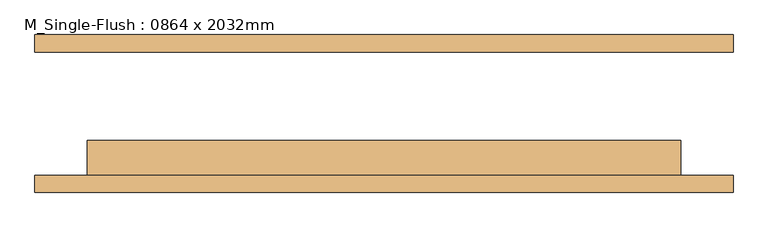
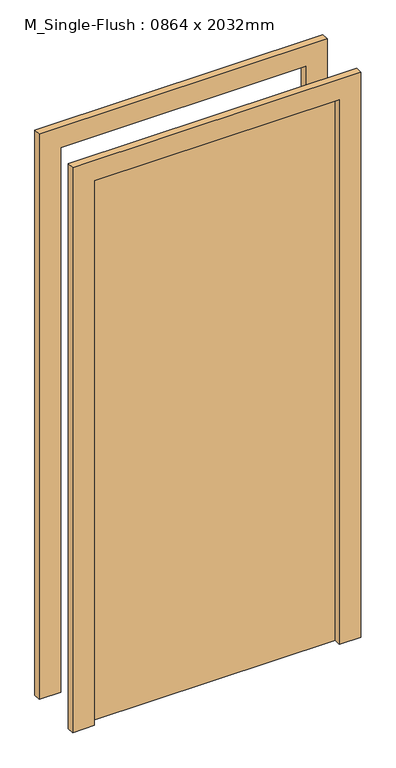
"""IFC4 building model written with IfcOpenShell, lengths in millimetres: door geometry, M_Single-Flush : 0864 x 2032mm."""

import ifcopenshell
import ifcopenshell.guid

model = None  # the IFC model being written
_history = None  # IfcOwnerHistory: only IFC2X3 demands one
_inside = {}  # id of a spatial element -> (the spatial element, [elements in it])
_under = {}  # id of a project, library or spatial element -> (it, [spatial elements below it])
_declared = {}  # id of a project -> (the project, [libraries it declares])
_typed = {}  # id of a type object -> (the type object, [elements of that type])
_made_of = {}  # id of a material, layer set ... -> (it, [elements and type objects made of it])


def new_model(schema):
    """Start an empty IFC model of exactly this schema.

    Asked for "IFC4X3", IfcOpenShell would pick the latest addendum, in which some entities
    have other attributes; the version numbers below select the first issue.
    IFC2X3 requires an IfcOwnerHistory on every rooted entity: one is made here for all.
    """
    global model, _history
    if schema == "IFC4X3":
        model = ifcopenshell.file(schema_version=(4, 3, 0, 0))
    else:
        model = ifcopenshell.file(schema=schema)
    _inside.clear()
    _under.clear()
    _declared.clear()
    _typed.clear()
    _made_of.clear()
    _history = None
    if model.schema == "IFC2X3":
        org = make("IfcOrganization", Name="unknown")
        user = make(
            "IfcPersonAndOrganization",
            ThePerson=make("IfcPerson", FamilyName="unknown"),
            TheOrganization=org,
        )
        app = make(
            "IfcApplication",
            ApplicationDeveloper=org,
            Version="unknown",
            ApplicationFullName="unknown",
            ApplicationIdentifier="unknown",
        )
        _history = make(
            "IfcOwnerHistory",
            OwningUser=user,
            OwningApplication=app,
            ChangeAction="ADDED",
            CreationDate=0,
        )
    return model


def make(cls, **values):
    """One entity of the class cls with the attributes given. An attribute that is None is left unset."""
    return model.create_entity(
        cls, **{name: value for name, value in values.items() if value is not None}
    )


def rooted(cls, **values):
    """An entity with a GlobalId (a new one), such as an element, a storey or a relation."""
    return make(cls, GlobalId=ifcopenshell.guid.new(), OwnerHistory=_history, **values)


def si_unit(unit_type, name, prefix=None):
    """IfcSIUnit, for example si_unit("LENGTHUNIT", "METRE", prefix="MILLI")."""
    return make("IfcSIUnit", UnitType=unit_type, Prefix=prefix, Name=name)


def assignment(units):
    """IfcUnitAssignment: the units of a project."""
    return None if units is None else make("IfcUnitAssignment", Units=units)


def point(xyz):
    """IfcCartesianPoint."""
    return None if xyz is None else make("IfcCartesianPoint", Coordinates=xyz)


def direction(xyz):
    """IfcDirection."""
    return None if xyz is None else make("IfcDirection", DirectionRatios=xyz)


def frame(location, z_axis=None, x_axis=None):
    """IfcAxis2Placement3D, a coordinate frame: its origin and axes. An axis left out is left unset."""
    return make(
        "IfcAxis2Placement3D",
        Location=point(location),
        Axis=direction(z_axis),
        RefDirection=direction(x_axis),
    )


def origin():
    """The frame at (0, 0, 0) with its axes left unset."""
    return frame((0.0, 0.0, 0.0))


def origin_with_axes():
    """The frame at (0, 0, 0) with the z axis (0, 0, 1) and the x axis (1, 0, 0) written out."""
    return frame((0.0, 0.0, 0.0), z_axis=(0.0, 0.0, 1.0), x_axis=(1.0, 0.0, 0.0))


def place(relative_to, where):
    """IfcLocalPlacement: puts the frame where relative to a parent placement (None: the world)."""
    return make(
        "IfcLocalPlacement", PlacementRelTo=relative_to, RelativePlacement=where
    )


def context(
    kind, dimensions, precision=None, world=None, true_north=None, identifier=None
):
    """IfcGeometricRepresentationContext, for example the 3D "Model" context."""
    return make(
        "IfcGeometricRepresentationContext",
        ContextIdentifier=identifier,
        ContextType=kind,
        CoordinateSpaceDimension=dimensions,
        Precision=precision,
        WorldCoordinateSystem=world,
        TrueNorth=true_north,
    )


def project(units=None, contexts=None):
    """IfcProject with its units and contexts."""
    return rooted(
        "IfcProject",
        Name="project",
        RepresentationContexts=contexts,
        UnitsInContext=assignment(units),
    )


def spatial(cls, under=None, at=None, **own):
    """A site, building, storey or space (cls), placed at a placement, below another one or the project."""
    s = rooted(cls, ObjectPlacement=at, **own)
    if under is not None:
        _under.setdefault(under.id(), (under, []))[1].append(s)
    return s


def polyline(points):
    """IfcPolyline through the points."""
    return make("IfcPolyline", Points=[point(p) for p in points])


def outline(outer, holes=None, kind="AREA"):
    """IfcArbitraryClosedProfileDef: a profile drawn as a closed curve; with holes, ...WithVoids."""
    if holes is None:
        return make("IfcArbitraryClosedProfileDef", ProfileType=kind, OuterCurve=outer)
    return make(
        "IfcArbitraryProfileDefWithVoids",
        ProfileType=kind,
        OuterCurve=outer,
        InnerCurves=holes,
    )


def extrude(swept, where, along, depth):
    """IfcExtrudedAreaSolid: the profile swept, set in the frame where, extruded along a direction by depth."""
    return make(
        "IfcExtrudedAreaSolid",
        SweptArea=swept,
        Position=where,
        ExtrudedDirection=direction(along),
        Depth=depth,
    )


def shape(context_of_items, identifier, shape_type, items):
    """IfcShapeRepresentation: the items that make up one representation, for example the "Body"."""
    return make(
        "IfcShapeRepresentation",
        ContextOfItems=context_of_items,
        RepresentationIdentifier=identifier,
        RepresentationType=shape_type,
        Items=items,
    )


def source(mapping_origin, context_of_items, identifier, shape_type, items):
    """IfcRepresentationMap: a shape defined once, which mapped items show again and again."""
    return make(
        "IfcRepresentationMap",
        MappingOrigin=mapping_origin,
        MappedRepresentation=shape(context_of_items, identifier, shape_type, items),
    )


def transform(
    local_origin,
    x_axis=None,
    y_axis=None,
    z_axis=None,
    scale=None,
    scale2=None,
    scale3=None,
    uniform=True,
):
    """IfcCartesianTransformationOperator3D, or its non-uniform kind. x_axis, y_axis, z_axis: its Axis1, 2, 3."""
    if uniform:
        return make(
            "IfcCartesianTransformationOperator3D",
            Axis1=direction(x_axis),
            Axis2=direction(y_axis),
            LocalOrigin=point(local_origin),
            Scale=scale,
            Axis3=direction(z_axis),
        )
    return make(
        "IfcCartesianTransformationOperator3DnonUniform",
        Axis1=direction(x_axis),
        Axis2=direction(y_axis),
        LocalOrigin=point(local_origin),
        Scale=scale,
        Axis3=direction(z_axis),
        Scale2=scale2,
        Scale3=scale3,
    )


def mapped(mapping_source, mapping_target):
    """IfcMappedItem: shows the shape of a source again, moved by a transform."""
    return make(
        "IfcMappedItem", MappingSource=mapping_source, MappingTarget=mapping_target
    )


def made_of(thing, what):
    """Note that an element or type object is made of a material, layer set ...; save() writes the relation."""
    if what is not None:
        _made_of.setdefault(what.id(), (what, []))[1].append(thing)
    return thing


def element(
    cls,
    number,
    at=None,
    inside=None,
    cuts=None,
    type_object=None,
    material=None,
    context=None,
    identifier="Body",
    shape_type=None,
    held_by="IfcProductDefinitionShape",
    body=None,
    shapes=None,
    **own,
):
    """One element of the class cls, such as IfcWall. Its Tag is "e" and its number.

    at: its placement. inside: the storey or other place that contains it. cuts: it is an
    opening in that element (IfcRelVoidsElement). A single representation is given by context,
    identifier, shape_type and body (its items); several are given by shapes. held_by: the class
    of the entity that holds the representations. save() writes the other relations.
    """
    e = rooted(cls, Tag="e%d" % number, ObjectPlacement=at, **own)
    if body is not None:
        shapes = [shape(context, identifier, shape_type, body)]
    if shapes is not None:
        e.Representation = make(held_by, Representations=shapes)
    if inside is not None:
        _inside.setdefault(inside.id(), (inside, []))[1].append(e)
    if cuts is not None:
        rooted(
            "IfcRelVoidsElement", RelatingBuildingElement=cuts, RelatedOpeningElement=e
        )
    if type_object is not None:
        _typed.setdefault(type_object.id(), (type_object, []))[1].append(e)
    return made_of(e, material)


def aggregate(whole, parts):
    """IfcRelAggregates: a whole, such as a stair, and the parts it consists of."""
    return rooted("IfcRelAggregates", RelatingObject=whole, RelatedObjects=parts)


def save(model, path):
    """Write the relations noted so far, then the file.

    IfcRelAggregates (storeys below a building ...), IfcRelContainedInSpatialStructure (elements
    in a storey), IfcRelDefinesByType, IfcRelAssociatesMaterial and IfcRelDeclares: one each for
    every whole, place, type object, material and project.
    """
    for whole, parts in _under.values():
        aggregate(whole, parts)
    for where, things in _inside.values():
        rooted(
            "IfcRelContainedInSpatialStructure",
            RelatedElements=things,
            RelatingStructure=where,
        )
    for kind, things in _typed.values():
        rooted("IfcRelDefinesByType", RelatedObjects=things, RelatingType=kind)
    for what, things in _made_of.values():
        rooted("IfcRelAssociatesMaterial", RelatedObjects=things, RelatingMaterial=what)
    for by, libraries in _declared.values():
        rooted("IfcRelDeclares", RelatingContext=by, RelatedDefinitions=libraries)
    model.write(path)


def m_single_flush_0864_x_2032mm_7823a673(model_context):
    return source(origin(), model_context, "Body", "SweptSolid", [
        extrude(outline(polyline([(2108.0, -508.0), (0.0, -508.0), (0.0, -432.0), (2032.0, -432.0), (2032.0, 432.0), (0.0, 432.0), (0.0, 508.0), (2108.0, 508.0), (2108.0, -508.0)])), frame((0.0, -115.0, 0.0), z_axis=(0.0, 1.0, 0.0), x_axis=(0.0, 0.0, 1.0)), (0.0, 0.0, 1.0), 25.0),
        extrude(outline(polyline([(2108.0, 508.0), (2108.0, -508.0), (0.0, -508.0), (0.0, -432.0), (2032.0, -432.0), (2032.0, 432.0), (0.0, 432.0), (0.0, 508.0), (2108.0, 508.0)])), frame((0.0, 90.0, 0.0), z_axis=(0.0, 1.0, 0.0), x_axis=(0.0, 0.0, 1.0)), (0.0, 0.0, 1.0), 25.0),
        extrude(outline(polyline([(432.0, -39.0), (432.0, -90.0), (-432.0, -90.0), (-432.0, -39.0), (432.0, -39.0)])), origin_with_axes(), (0.0, 0.0, 1.0), 2032.0),
    ])


if __name__ == "__main__":
    model = new_model("IFC4")
    model_context = context("Model", 3, world=origin())
    ifc_project = project(units=[si_unit("LENGTHUNIT", "METRE", prefix="MILLI")], contexts=[model_context])
    site = spatial("IfcSite", under=ifc_project)
    building = spatial("IfcBuilding", under=site)
    placement = place(None, origin())
    m_single_flush_0864_x_2032mm_shape = m_single_flush_0864_x_2032mm_7823a673(model_context)
    element("IfcDoor", 1, ObjectType="M_Single-Flush : 0864 x 2032mm", at=placement, inside=building, context=model_context, shape_type="MappedRepresentation", body=[
        mapped(m_single_flush_0864_x_2032mm_shape, transform((0.0, 0.0, 0.0), x_axis=(1.0, 0.0, 0.0), y_axis=(0.0, 1.0, 0.0), z_axis=(0.0, 0.0, 1.0))),
    ])
    save(model, "model.ifc")
